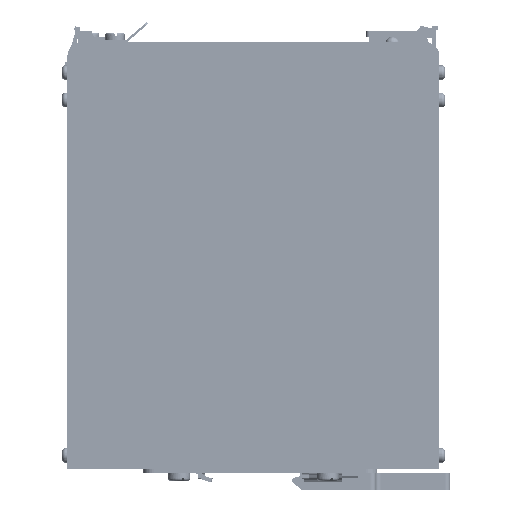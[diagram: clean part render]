
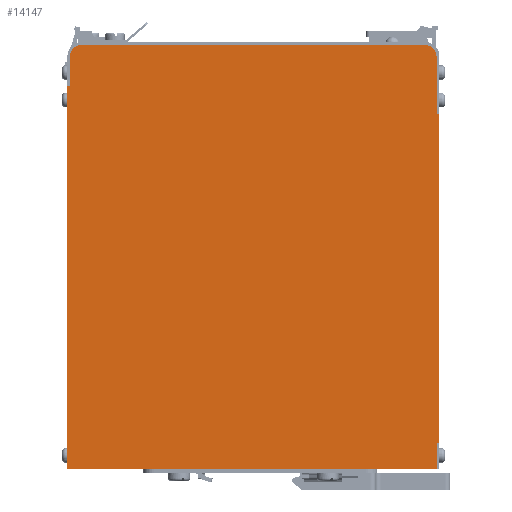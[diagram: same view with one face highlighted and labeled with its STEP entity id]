
A CAD part, left-side view. The second image highlights one B-rep face of the part: STEP entity #14147.
In plain terms, the highlighted planar face has unit normal (-1, 0, 0).
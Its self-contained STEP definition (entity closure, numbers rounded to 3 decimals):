
#14147=ADVANCED_FACE('NONE',(#31023),#31024,.T.);
#31023=FACE_OUTER_BOUND('',#50874,.T.);
#31024=PLANE('',#50875);
#50874=EDGE_LOOP('',(#94486,#94487,#94488,#94489,#94490,#94491,#94492,#94493,#94494,#94495,#94496,#94497));
#50875=AXIS2_PLACEMENT_3D('',#94498,#94499,#94500);
#94486=ORIENTED_EDGE('',*,*,#132685,.T.);
#94487=ORIENTED_EDGE('',*,*,#132686,.T.);
#94488=ORIENTED_EDGE('',*,*,#132681,.F.);
#94489=ORIENTED_EDGE('',*,*,#132687,.T.);
#94490=ORIENTED_EDGE('',*,*,#132688,.T.);
#94491=ORIENTED_EDGE('',*,*,#132689,.T.);
#94492=ORIENTED_EDGE('',*,*,#132690,.F.);
#94493=ORIENTED_EDGE('',*,*,#132679,.T.);
#94494=ORIENTED_EDGE('',*,*,#132691,.T.);
#94495=ORIENTED_EDGE('',*,*,#132692,.T.);
#94496=ORIENTED_EDGE('',*,*,#132673,.T.);
#94497=ORIENTED_EDGE('',*,*,#132693,.T.);
#94498=CARTESIAN_POINT('',(-144.202,-126.705,-140.));
#94499=DIRECTION('',(-1.0,0.0,0.0));
#94500=DIRECTION('',(0.0,0.0,1.0));
#132673=EDGE_CURVE('NONE',#165089,#165091,#165093,.T.);
#132679=EDGE_CURVE('NONE',#165096,#165101,#165103,.T.);
#132681=EDGE_CURVE('NONE',#165105,#165106,#165107,.T.);
#132685=EDGE_CURVE('NONE',#165111,#165112,#165113,.T.);
#132686=EDGE_CURVE('NONE',#165112,#165106,#165114,.T.);
#132687=EDGE_CURVE('NONE',#165105,#165115,#165116,.T.);
#132688=EDGE_CURVE('NONE',#165115,#165117,#165118,.T.);
#132689=EDGE_CURVE('NONE',#165117,#165119,#165120,.T.);
#132690=EDGE_CURVE('NONE',#165096,#165119,#165121,.T.);
#132691=EDGE_CURVE('NONE',#165101,#165122,#165123,.T.);
#132692=EDGE_CURVE('NONE',#165122,#165089,#165124,.T.);
#132693=EDGE_CURVE('NONE',#165091,#165111,#165125,.T.);
#165089=VERTEX_POINT('NONE',#207441);
#165091=VERTEX_POINT('NONE',#207444);
#165093=LINE('',#207447,#207448);
#165096=VERTEX_POINT('NONE',#207451);
#165101=VERTEX_POINT('NONE',#207459);
#165103=LINE('',#207462,#207463);
#165105=VERTEX_POINT('NONE',#207465);
#165106=VERTEX_POINT('NONE',#207466);
#165107=LINE('',#207467,#207468);
#165111=VERTEX_POINT('NONE',#207474);
#165112=VERTEX_POINT('NONE',#207475);
#165113=LINE('',#207476,#207477);
#165114=CIRCLE('',#207478,4.0);
#165115=VERTEX_POINT('NONE',#207479);
#165116=CIRCLE('',#207480,4.0);
#165117=VERTEX_POINT('NONE',#207481);
#165118=LINE('',#207482,#207483);
#165119=VERTEX_POINT('NONE',#207484);
#165120=LINE('',#207485,#207486);
#165121=LINE('',#207487,#207488);
#165122=VERTEX_POINT('NONE',#207489);
#165123=LINE('',#207490,#207491);
#165124=LINE('',#207492,#207493);
#165125=LINE('',#207494,#207495);
#207441=CARTESIAN_POINT('',(-144.202,-126.705,-130.5));
#207444=CARTESIAN_POINT('',(-144.202,-126.705,-11.));
#207447=CARTESIAN_POINT('',(-144.202,-126.705,-140.));
#207448=VECTOR('',#243465,1000.0);
#207451=CARTESIAN_POINT('',(-144.202,8.295,-140.));
#207459=CARTESIAN_POINT('',(-144.202,-125.725,-140.));
#207462=CARTESIAN_POINT('',(-144.202,-126.705,-140.));
#207463=VECTOR('',#243470,1000.0);
#207465=CARTESIAN_POINT('',(-144.202,3.295,14.));
#207466=CARTESIAN_POINT('',(-144.202,-121.705,14.));
#207467=CARTESIAN_POINT('',(-144.202,-126.705,14.));
#207468=VECTOR('',#243471,1000.0);
#207474=CARTESIAN_POINT('',(-144.202,-125.705,-11.));
#207475=CARTESIAN_POINT('',(-144.202,-125.705,10.));
#207476=CARTESIAN_POINT('',(-144.202,-125.705,14.));
#207477=VECTOR('',#243474,1000.0);
#207478=AXIS2_PLACEMENT_3D('',#243475,#243476,#243477);
#207479=CARTESIAN_POINT('',(-144.202,7.295,10.));
#207480=AXIS2_PLACEMENT_3D('',#243478,#243479,#243480);
#207481=CARTESIAN_POINT('',(-144.202,7.295,-1.));
#207482=CARTESIAN_POINT('',(-144.202,7.295,14.));
#207483=VECTOR('',#243481,1000.0);
#207484=CARTESIAN_POINT('',(-144.202,8.295,-1.));
#207485=CARTESIAN_POINT('',(-144.202,8.295,-1.));
#207486=VECTOR('',#243482,1000.0);
#207487=CARTESIAN_POINT('',(-144.202,8.295,-140.));
#207488=VECTOR('',#243483,1000.0);
#207489=CARTESIAN_POINT('',(-144.202,-125.725,-130.5));
#207490=CARTESIAN_POINT('',(-144.202,-125.725,-130.5));
#207491=VECTOR('',#243484,1000.0);
#207492=CARTESIAN_POINT('',(-144.202,-126.725,-130.5));
#207493=VECTOR('',#243485,1000.0);
#207494=CARTESIAN_POINT('',(-144.202,-126.705,-11.));
#207495=VECTOR('',#243486,1000.0);
#243465=DIRECTION('',(0.0,0.0,1.0));
#243470=DIRECTION('',(-0.0,-1.0,-0.0));
#243471=DIRECTION('',(-0.0,-1.0,-0.0));
#243474=DIRECTION('',(-0.0,-0.0,1.0));
#243475=CARTESIAN_POINT('',(-144.202,-121.705,10.));
#243476=DIRECTION('',(-1.0,0.0,0.0));
#243477=DIRECTION('',(0.0,0.0,1.0));
#243478=CARTESIAN_POINT('',(-144.202,3.295,10.));
#243479=DIRECTION('',(-1.0,0.0,0.0));
#243480=DIRECTION('',(0.0,0.0,1.0));
#243481=DIRECTION('',(0.0,0.0,-1.0));
#243482=DIRECTION('',(-0.0,1.0,-0.0));
#243483=DIRECTION('',(0.0,0.0,1.0));
#243484=DIRECTION('',(-0.0,-0.0,1.0));
#243485=DIRECTION('',(-0.0,-1.0,-0.0));
#243486=DIRECTION('',(0.0,1.0,0.0));
